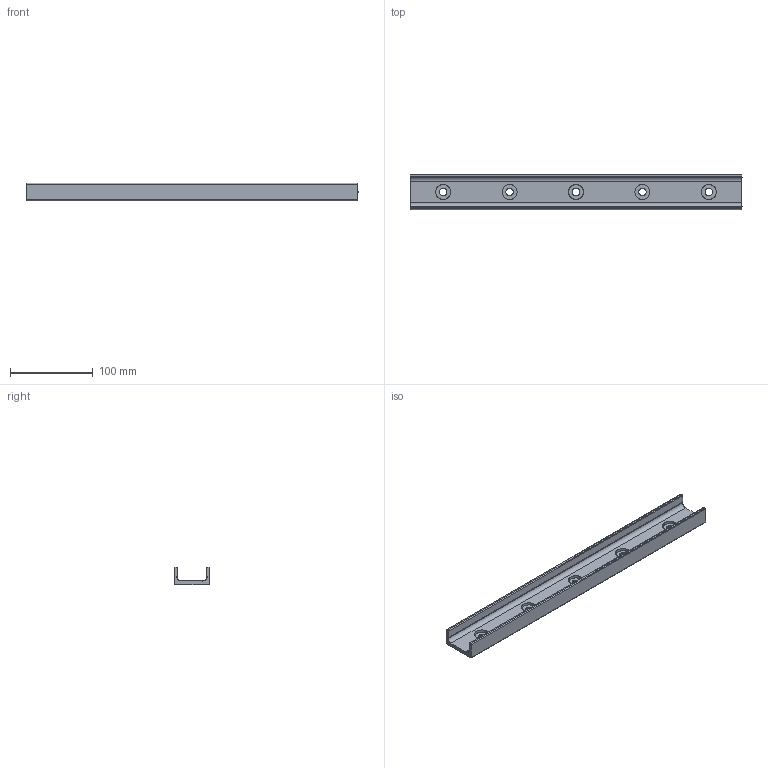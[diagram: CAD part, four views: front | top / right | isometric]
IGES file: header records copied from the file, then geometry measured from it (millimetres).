
Start section: SolidWorks IGES file using analytic representation for surfaces
Global section: file name: C:\Users\IanO\Desktop\43\L1943.ULC43_v2_20180121_IGES\Default.igs; native system: SolidWorks 2017; preprocessor: SolidWorks 2017; author: IanO; date: 190121.084500; units: millimetre
Bounding box: 400 x 43 x 21 mm (x, y, z)
Surface area: 63288.5 mm2 (no closed solid volume)
Topology: 0 solids, 0 shells, 51 faces, 1014 edges, 1014 vertices
Faces by surface type: revolution 33, bspline 18
